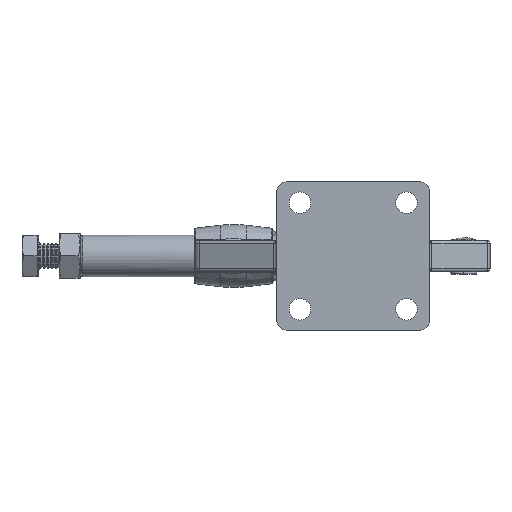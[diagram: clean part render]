
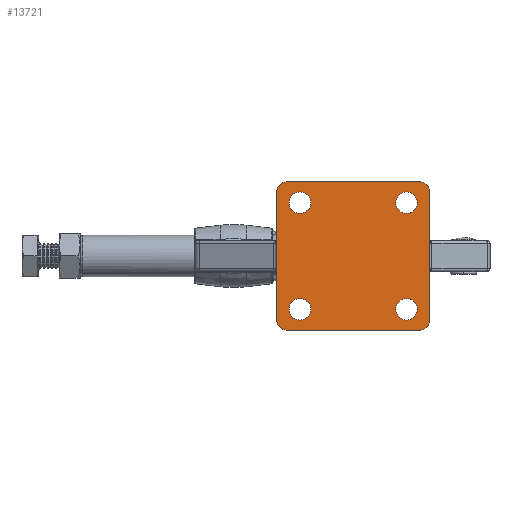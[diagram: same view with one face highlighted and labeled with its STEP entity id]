
A CAD part, front view. The second image highlights one B-rep face of the part: STEP entity #13721.
In plain terms, the highlighted planar face has unit normal (0, -1, 0).
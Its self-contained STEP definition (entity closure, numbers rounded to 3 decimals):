
#126 = DIRECTION ( 'NONE',  ( 0., 0., 1. ) ) ;
#147 = DIRECTION ( 'NONE',  ( 0., -1., 0. ) ) ;
#339 = DIRECTION ( 'NONE',  ( 0., -1., 0. ) ) ;
#437 = DIRECTION ( 'NONE',  ( 0., -1., 0. ) ) ;
#666 = ORIENTED_EDGE ( 'NONE', *, *, #10497, .F. ) ;
#689 = DIRECTION ( 'NONE',  ( 0., 1., 0. ) ) ;
#690 = CIRCLE ( 'NONE', #4570, 4.15 ) ;
#996 = AXIS2_PLACEMENT_3D ( 'NONE', #13968, #6578, #15201 ) ;
#1043 = CIRCLE ( 'NONE', #9368, 3.5 ) ;
#1430 = FACE_BOUND ( 'NONE', #7542, .T. ) ;
#1701 = CARTESIAN_POINT ( 'NONE',  ( 20.55, 0., 16.4 ) ) ;
#1927 = CARTESIAN_POINT ( 'NONE',  ( -20.55, 0., -20.55 ) ) ;
#2031 = CARTESIAN_POINT ( 'NONE',  ( 25.9, 0., 28.6 ) ) ;
#2246 = EDGE_CURVE ( 'NONE', #15679, #7846, #9738, .T. ) ;
#2247 = DIRECTION ( 'NONE',  ( 0., 1., 0. ) ) ;
#2386 = AXIS2_PLACEMENT_3D ( 'NONE', #9273, #11751, #4406 ) ;
#2466 = CARTESIAN_POINT ( 'NONE',  ( -20.55, 0., 16.4 ) ) ;
#2672 = EDGE_CURVE ( 'NONE', #3266, #11945, #690, .T. ) ;
#2735 = LINE ( 'NONE', #13223, #15067 ) ;
#2983 = LINE ( 'NONE', #10768, #3381 ) ;
#3024 = EDGE_CURVE ( 'NONE', #7175, #10264, #2983, .T. ) ;
#3175 = DIRECTION ( 'NONE',  ( 0., 0., 1. ) ) ;
#3266 = VERTEX_POINT ( 'NONE', #13936 ) ;
#3372 = EDGE_CURVE ( 'NONE', #7496, #8064, #4928, .T. ) ;
#3381 = VECTOR ( 'NONE', #13295, 1000. ) ;
#3434 = CARTESIAN_POINT ( 'NONE',  ( -20.55, 0., -24.7 ) ) ;
#3458 = VERTEX_POINT ( 'NONE', #4755 ) ;
#3874 = DIRECTION ( 'NONE',  ( 0., 1., 0. ) ) ;
#3992 = CIRCLE ( 'NONE', #7892, 3.5 ) ;
#4060 = CARTESIAN_POINT ( 'NONE',  ( -25.9, 0., -28.6 ) ) ;
#4153 = DIRECTION ( 'NONE',  ( 0., 0., -1. ) ) ;
#4165 = ORIENTED_EDGE ( 'NONE', *, *, #11221, .T. ) ;
#4325 = VECTOR ( 'NONE', #4153, 1000. ) ;
#4406 = DIRECTION ( 'NONE',  ( 0., 0., -1. ) ) ;
#4570 = AXIS2_PLACEMENT_3D ( 'NONE', #14858, #7494, #126 ) ;
#4643 = DIRECTION ( 'NONE',  ( -1., 0., 0. ) ) ;
#4714 = LINE ( 'NONE', #11513, #4325 ) ;
#4744 = FACE_BOUND ( 'NONE', #6218, .T. ) ;
#4755 = CARTESIAN_POINT ( 'NONE',  ( 25.9, 0., -28.6 ) ) ;
#4787 = AXIS2_PLACEMENT_3D ( 'NONE', #1927, #10545, #3175 ) ;
#4833 = DIRECTION ( 'NONE',  ( 0., -1., 0. ) ) ;
#4928 = CIRCLE ( 'NONE', #8569, 4.15 ) ;
#4977 = ORIENTED_EDGE ( 'NONE', *, *, #11035, .T. ) ;
#5229 = ORIENTED_EDGE ( 'NONE', *, *, #13112, .T. ) ;
#5514 = FACE_BOUND ( 'NONE', #12978, .T. ) ;
#5654 = CIRCLE ( 'NONE', #7982, 3.5 ) ;
#5662 = CARTESIAN_POINT ( 'NONE',  ( 20.55, 0., 20.55 ) ) ;
#5663 = CIRCLE ( 'NONE', #5773, 3.5 ) ;
#5773 = AXIS2_PLACEMENT_3D ( 'NONE', #7697, #339, #8945 ) ;
#5831 = CIRCLE ( 'NONE', #8501, 4.15 ) ;
#5894 = CIRCLE ( 'NONE', #6602, 4.15 ) ;
#5972 = CARTESIAN_POINT ( 'NONE',  ( 29.4, 0., -25.1 ) ) ;
#6052 = VERTEX_POINT ( 'NONE', #2466 ) ;
#6218 = EDGE_LOOP ( 'NONE', ( #9735, #10971 ) ) ;
#6292 = CIRCLE ( 'NONE', #9787, 4.15 ) ;
#6578 = DIRECTION ( 'NONE',  ( 0., 1., 0. ) ) ;
#6602 = AXIS2_PLACEMENT_3D ( 'NONE', #8055, #689, #9293 ) ;
#6663 = CIRCLE ( 'NONE', #4787, 4.15 ) ;
#6873 = DIRECTION ( 'NONE',  ( 0., 0., 1. ) ) ;
#7031 = DIRECTION ( 'NONE',  ( 0., 1., 0. ) ) ;
#7175 = VERTEX_POINT ( 'NONE', #7449 ) ;
#7449 = CARTESIAN_POINT ( 'NONE',  ( -29.4, 0., -25.1 ) ) ;
#7494 = DIRECTION ( 'NONE',  ( 0., 1., 0. ) ) ;
#7496 = VERTEX_POINT ( 'NONE', #1701 ) ;
#7509 = CARTESIAN_POINT ( 'NONE',  ( -25.9, 0., -25.1 ) ) ;
#7542 = EDGE_LOOP ( 'NONE', ( #13881, #15620 ) ) ;
#7697 = CARTESIAN_POINT ( 'NONE',  ( 25.9, 0., -25.1 ) ) ;
#7804 = CARTESIAN_POINT ( 'NONE',  ( -25.9, 0., 25.1 ) ) ;
#7846 = VERTEX_POINT ( 'NONE', #14767 ) ;
#7881 = EDGE_CURVE ( 'NONE', #7175, #9688, #3992, .T. ) ;
#7892 = AXIS2_PLACEMENT_3D ( 'NONE', #7509, #147, #8742 ) ;
#7982 = AXIS2_PLACEMENT_3D ( 'NONE', #7804, #437, #9045 ) ;
#7988 = FACE_BOUND ( 'NONE', #13240, .T. ) ;
#8031 = EDGE_CURVE ( 'NONE', #8064, #7496, #14002, .T. ) ;
#8055 = CARTESIAN_POINT ( 'NONE',  ( -20.55, 0., 20.55 ) ) ;
#8064 = VERTEX_POINT ( 'NONE', #11545 ) ;
#8501 = AXIS2_PLACEMENT_3D ( 'NONE', #9612, #2247, #10869 ) ;
#8512 = VERTEX_POINT ( 'NONE', #12812 ) ;
#8569 = AXIS2_PLACEMENT_3D ( 'NONE', #5662, #14262, #6873 ) ;
#8742 = DIRECTION ( 'NONE',  ( 0., 0., -1. ) ) ;
#8748 = VERTEX_POINT ( 'NONE', #5972 ) ;
#8945 = DIRECTION ( 'NONE',  ( 0., 0., -1. ) ) ;
#9011 = ORIENTED_EDGE ( 'NONE', *, *, #14972, .T. ) ;
#9045 = DIRECTION ( 'NONE',  ( 0., 0., -1. ) ) ;
#9229 = PLANE ( 'NONE',  #2386 ) ;
#9273 = CARTESIAN_POINT ( 'NONE',  ( 0., 0., 0. ) ) ;
#9278 = AXIS2_PLACEMENT_3D ( 'NONE', #10021, #3874, #14775 ) ;
#9293 = DIRECTION ( 'NONE',  ( 0., 0., 1. ) ) ;
#9368 = AXIS2_PLACEMENT_3D ( 'NONE', #12177, #4833, #13417 ) ;
#9612 = CARTESIAN_POINT ( 'NONE',  ( 20.55, 0., -20.55 ) ) ;
#9660 = EDGE_LOOP ( 'NONE', ( #666, #4165, #11842, #4977, #15431, #9011, #13550, #13928 ) ) ;
#9688 = VERTEX_POINT ( 'NONE', #4060 ) ;
#9735 = ORIENTED_EDGE ( 'NONE', *, *, #2672, .T. ) ;
#9738 = CIRCLE ( 'NONE', #9278, 4.15 ) ;
#9760 = CARTESIAN_POINT ( 'NONE',  ( 29.4, 0., 25.1 ) ) ;
#9787 = AXIS2_PLACEMENT_3D ( 'NONE', #14407, #7031, #15644 ) ;
#10021 = CARTESIAN_POINT ( 'NONE',  ( -20.55, 0., -20.55 ) ) ;
#10264 = VERTEX_POINT ( 'NONE', #12688 ) ;
#10299 = EDGE_CURVE ( 'NONE', #13337, #8748, #4714, .T. ) ;
#10497 = EDGE_CURVE ( 'NONE', #3458, #9688, #2735, .T. ) ;
#10545 = DIRECTION ( 'NONE',  ( 0., 1., 0. ) ) ;
#10768 = CARTESIAN_POINT ( 'NONE',  ( -29.4, 0., -28.6 ) ) ;
#10869 = DIRECTION ( 'NONE',  ( 0., 0., 1. ) ) ;
#10971 = ORIENTED_EDGE ( 'NONE', *, *, #15236, .T. ) ;
#11035 = EDGE_CURVE ( 'NONE', #13337, #15153, #1043, .T. ) ;
#11221 = EDGE_CURVE ( 'NONE', #3458, #8748, #5663, .T. ) ;
#11250 = FACE_OUTER_BOUND ( 'NONE', #9660, .T. ) ;
#11506 = VECTOR ( 'NONE', #13992, 1000. ) ;
#11513 = CARTESIAN_POINT ( 'NONE',  ( 29.4, 0., -28.6 ) ) ;
#11545 = CARTESIAN_POINT ( 'NONE',  ( 20.55, 0., 24.7 ) ) ;
#11751 = DIRECTION ( 'NONE',  ( 0., -1., 0. ) ) ;
#11773 = EDGE_CURVE ( 'NONE', #12589, #15153, #15156, .T. ) ;
#11787 = CARTESIAN_POINT ( 'NONE',  ( -25.9, 0., 28.6 ) ) ;
#11842 = ORIENTED_EDGE ( 'NONE', *, *, #10299, .F. ) ;
#11945 = VERTEX_POINT ( 'NONE', #14259 ) ;
#11951 = EDGE_CURVE ( 'NONE', #8512, #6052, #6292, .T. ) ;
#12085 = ORIENTED_EDGE ( 'NONE', *, *, #2246, .T. ) ;
#12177 = CARTESIAN_POINT ( 'NONE',  ( 25.9, 0., 25.1 ) ) ;
#12568 = EDGE_CURVE ( 'NONE', #7846, #15679, #6663, .T. ) ;
#12589 = VERTEX_POINT ( 'NONE', #11787 ) ;
#12688 = CARTESIAN_POINT ( 'NONE',  ( -29.4, 0., 25.1 ) ) ;
#12740 = CARTESIAN_POINT ( 'NONE',  ( 29.4, 0., 28.6 ) ) ;
#12812 = CARTESIAN_POINT ( 'NONE',  ( -20.55, 0., 24.7 ) ) ;
#12978 = EDGE_LOOP ( 'NONE', ( #5229, #13131 ) ) ;
#13112 = EDGE_CURVE ( 'NONE', #6052, #8512, #5894, .T. ) ;
#13131 = ORIENTED_EDGE ( 'NONE', *, *, #11951, .T. ) ;
#13223 = CARTESIAN_POINT ( 'NONE',  ( 29.4, 0., -28.6 ) ) ;
#13240 = EDGE_LOOP ( 'NONE', ( #12085, #13674 ) ) ;
#13295 = DIRECTION ( 'NONE',  ( 0., 0., 1. ) ) ;
#13337 = VERTEX_POINT ( 'NONE', #9760 ) ;
#13417 = DIRECTION ( 'NONE',  ( 0., 0., -1. ) ) ;
#13550 = ORIENTED_EDGE ( 'NONE', *, *, #3024, .F. ) ;
#13674 = ORIENTED_EDGE ( 'NONE', *, *, #12568, .T. ) ;
#13721 = ADVANCED_FACE ( 'NONE', ( #5514, #7988, #11250, #4744, #1430 ), #9229, .T. ) ;
#13881 = ORIENTED_EDGE ( 'NONE', *, *, #3372, .T. ) ;
#13928 = ORIENTED_EDGE ( 'NONE', *, *, #7881, .T. ) ;
#13936 = CARTESIAN_POINT ( 'NONE',  ( 20.55, 0., -24.7 ) ) ;
#13968 = CARTESIAN_POINT ( 'NONE',  ( 20.55, 0., 20.55 ) ) ;
#13992 = DIRECTION ( 'NONE',  ( 1., 0., 0. ) ) ;
#14002 = CIRCLE ( 'NONE', #996, 4.15 ) ;
#14259 = CARTESIAN_POINT ( 'NONE',  ( 20.55, 0., -16.4 ) ) ;
#14262 = DIRECTION ( 'NONE',  ( 0., 1., 0. ) ) ;
#14407 = CARTESIAN_POINT ( 'NONE',  ( -20.55, 0., 20.55 ) ) ;
#14767 = CARTESIAN_POINT ( 'NONE',  ( -20.55, 0., -16.4 ) ) ;
#14775 = DIRECTION ( 'NONE',  ( 0., 0., 1. ) ) ;
#14858 = CARTESIAN_POINT ( 'NONE',  ( 20.55, 0., -20.55 ) ) ;
#14972 = EDGE_CURVE ( 'NONE', #12589, #10264, #5654, .T. ) ;
#15067 = VECTOR ( 'NONE', #4643, 1000. ) ;
#15153 = VERTEX_POINT ( 'NONE', #2031 ) ;
#15156 = LINE ( 'NONE', #12740, #11506 ) ;
#15201 = DIRECTION ( 'NONE',  ( 0., 0., 1. ) ) ;
#15236 = EDGE_CURVE ( 'NONE', #11945, #3266, #5831, .T. ) ;
#15431 = ORIENTED_EDGE ( 'NONE', *, *, #11773, .F. ) ;
#15620 = ORIENTED_EDGE ( 'NONE', *, *, #8031, .T. ) ;
#15644 = DIRECTION ( 'NONE',  ( 0., 0., 1. ) ) ;
#15679 = VERTEX_POINT ( 'NONE', #3434 ) ;
